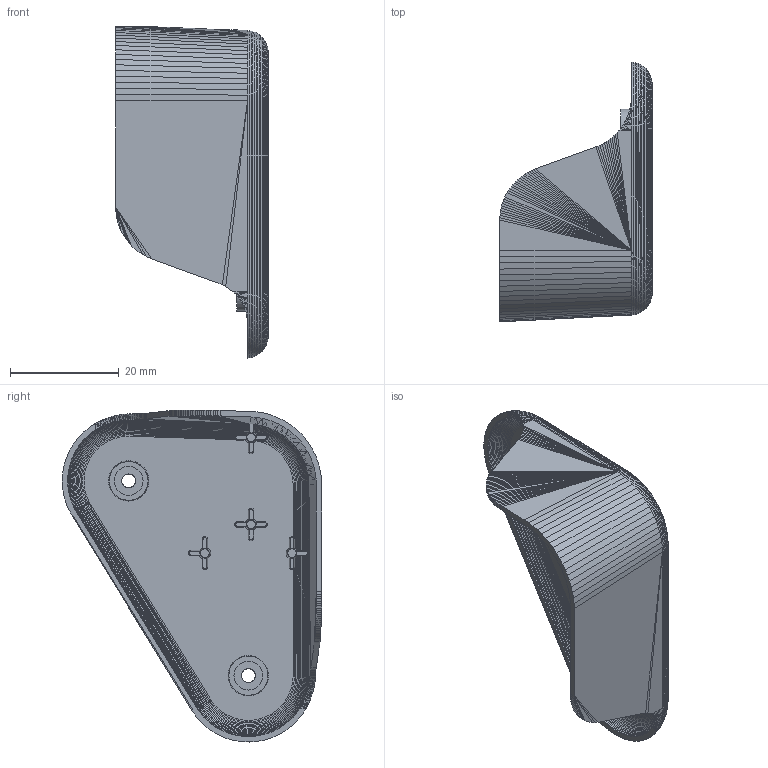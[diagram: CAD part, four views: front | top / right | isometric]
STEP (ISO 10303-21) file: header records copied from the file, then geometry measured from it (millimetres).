
FILE_DESCRIPTION (( 'STEP AP203' ), '1' );
FILE_NAME ('left_upper_leg_酘奻虯-FT.STEP', '2026-09-12T23:17:09', ( '' ), ( '' ), 'SwSTEP 2.0', 'SolidWorks 2021', '' );
FILE_SCHEMA (( 'CONFIG_CONTROL_DESIGN' ));
Products named in the file (1): left_upper_leg_酘奻虯-FT
Bounding box: 28 x 47.66 x 61 mm (x, y, z)
Volume: 4184.4 mm3; surface area: 8615.3 mm2
Topology: 1 solids, 1 shells, 5425 faces, 11358 edges, 5944 vertices
Faces by surface type: plane 5417, cylinder 8
Entity records: 135087 total; most frequent: CARTESIAN_POINT 23037, ORIENTED_EDGE 22716, DIRECTION 22186, EDGE_CURVE 11358, LINE 11176, VECTOR 11176, VERTEX_POINT 5944, AXIS2_PLACEMENT_3D 5505
